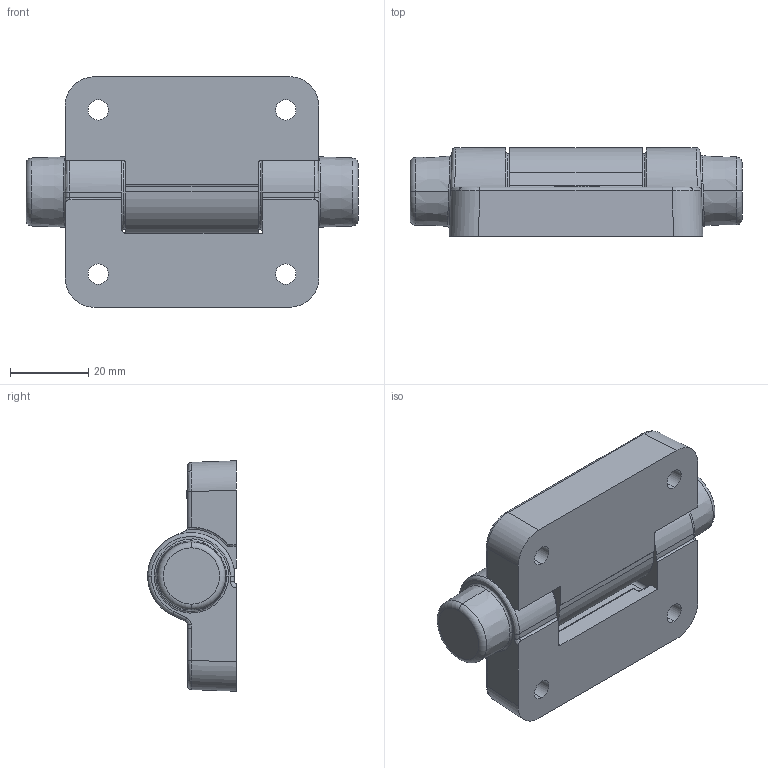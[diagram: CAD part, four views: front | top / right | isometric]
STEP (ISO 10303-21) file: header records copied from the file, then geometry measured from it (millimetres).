
FILE_DESCRIPTION (( 'STEP AP203' ), '1' );
FILE_NAME ('HG-JHW16S.step', '2014-08-28T06:47:27', ( '' ), ( '' ), 'SwSTEP 2.0', 'SolidWorks 2013', '' );
FILE_SCHEMA (( 'CONFIG_CONTROL_DESIGN' ));
Length unit declared in the file: millimetre
Products named in the file (3): HG-JHW16S_Bracket_A; HG-JHW16S_Bracket_B; HG-JHW16S
Assembly tree (2 placements, depth 2):
  HG-JHW16S
    HG-JHW16S_Bracket_A
    HG-JHW16S_Bracket_B
Bounding box: 85 x 22.7 x 59 mm (x, y, z)
Volume: 56693.4 mm3; surface area: 17607.8 mm2
Topology: 2 solids, 2 shells, 217 faces, 525 edges, 327 vertices
Faces by surface type: plane 83, cylinder 58, torus 35, cone 20, bspline 20, sphere 1
Entity records: 7396 total; most frequent: CARTESIAN_POINT 2101, DIRECTION 1059, ORIENTED_EDGE 1048, EDGE_CURVE 524, AXIS2_PLACEMENT_3D 397, VERTEX_POINT 327, LINE 265, VECTOR 265
